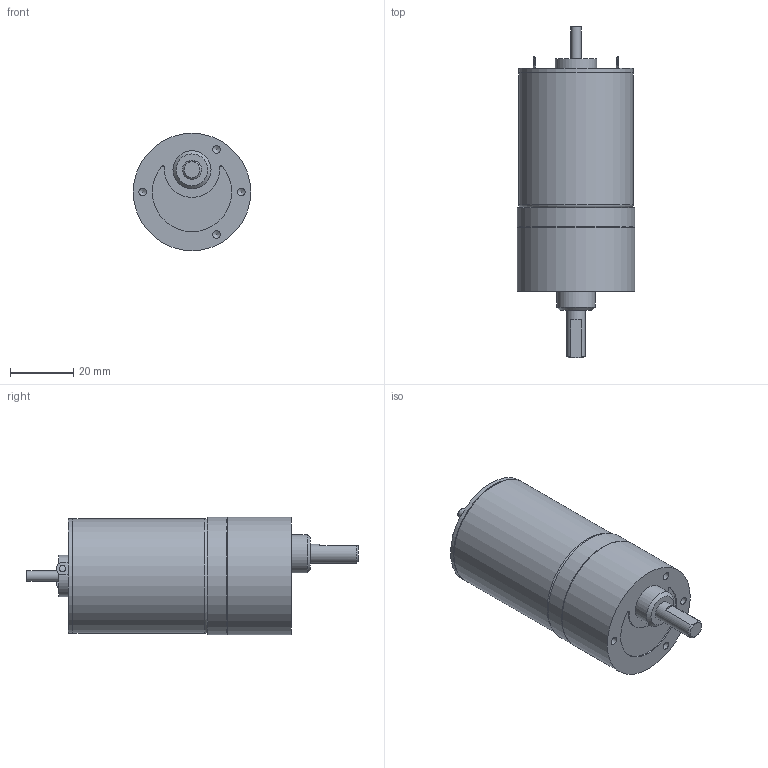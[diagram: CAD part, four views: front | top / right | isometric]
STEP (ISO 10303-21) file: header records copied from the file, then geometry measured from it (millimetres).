
FILE_DESCRIPTION((''),'2;1');
FILE_NAME('C:\Documents and Settings\SSEGAWA\デスクトップ\TP-3644L-HM-3.STP','2013-07-26T17:09:03',('SSEGAWA'),(''),'Autodesk Inventor 2010','Autodesk Inventor 2010','');
FILE_SCHEMA(('CONFIG_CONTROL_DESIGN'));
Length unit declared in the file: millimetre
Products named in the file (1): tp_3644l_hm_3_Shrinkwrap_1
Bounding box: 37 x 104.6 x 37 mm (x, y, z)
Volume: 74316.2 mm3; surface area: 11461.5 mm2
Topology: 1 solids, 4 shells, 65 faces, 140 edges, 94 vertices
Faces by surface type: plane 27, cylinder 18, bspline 16, torus 2, cone 2
Full cylindrical faces by diameter (mm): 3 x1, 3.175 x1, 3.5 x1, 6 x1, 12 x1, 13 x1, 35.6 x1, 36 x2, 36.6 x1, 37 x2
Entity records: 1751 total; most frequent: CARTESIAN_POINT 503, DIRECTION 245, ORIENTED_EDGE 176, EDGE_LOOP 111, AXIS2_PLACEMENT_3D 109, EDGE_CURVE 88, VERTEX_POINT 73, STYLED_ITEM 66
